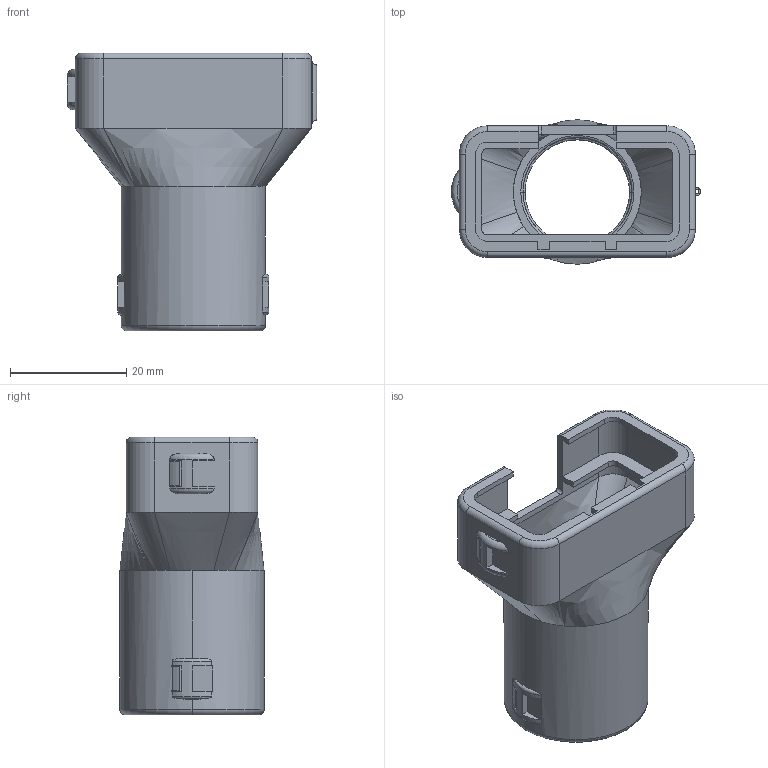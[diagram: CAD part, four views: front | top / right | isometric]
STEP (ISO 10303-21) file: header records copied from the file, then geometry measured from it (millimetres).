
FILE_DESCRIPTION((''),'2;1');
FILE_NAME('C-1-2035047-1','2009-08-26T',('workeradm'),(''),'PRO/ENGINEER BY PARAMETRIC TECHNOLOGY CORPORATION, 2008380','PRO/ENGINEER BY PARAMETRIC TECHNOLOGY CORPORATION, 2008380','');
FILE_SCHEMA(('AUTOMOTIVE_DESIGN { 1 0 10303 214 1 1 1 1 }'));
Length unit declared in the file: millimetre
Products named in the file (1): C-1-2035047-1
Bounding box: 42.96 x 24.85 x 47.9 mm (x, y, z)
Volume: 6488.9 mm3; surface area: 9762.2 mm2
Topology: 1 solids, 1 shells, 161 faces, 454 edges, 298 vertices
Faces by surface type: plane 80, cylinder 49, torus 16, bspline 16
Entity records: 6426 total; most frequent: CARTESIAN_POINT 2148, ORIENTED_EDGE 908, DIRECTION 884, EDGE_CURVE 454, AXIS2_PLACEMENT_3D 309, VERTEX_POINT 298, VECTOR 266, LINE 266
